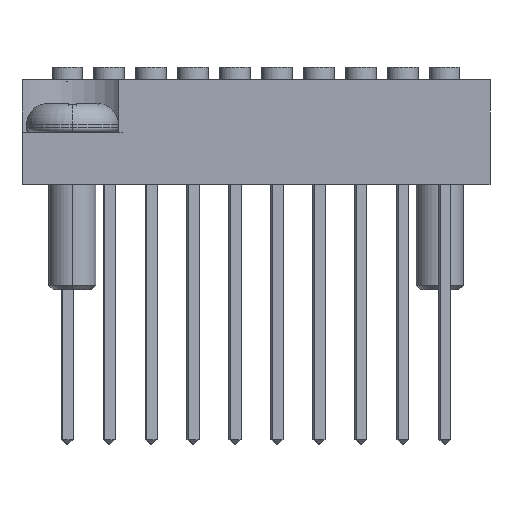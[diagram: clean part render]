
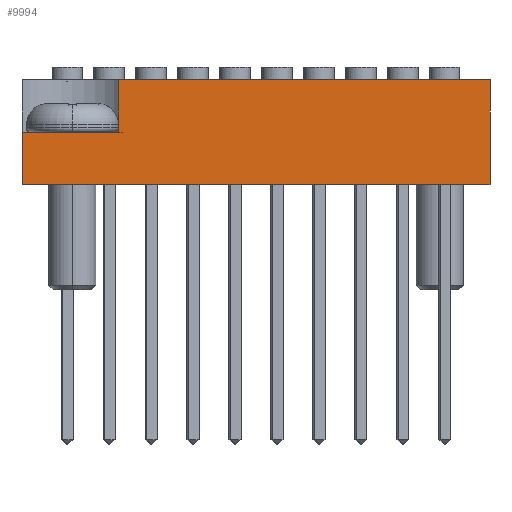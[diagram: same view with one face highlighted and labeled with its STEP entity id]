
A CAD part, front view. The second image highlights one B-rep face of the part: STEP entity #9994.
In plain terms, the highlighted planar face has unit normal (0, -1, 0).
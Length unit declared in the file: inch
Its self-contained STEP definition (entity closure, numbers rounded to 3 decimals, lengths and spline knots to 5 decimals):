
#769 = CARTESIAN_POINT ( 'NONE',  ( -0.5575, -1.1725, -0.125 ) ) ;
#1097 = FACE_OUTER_BOUND ( 'NONE', #22522, .T. ) ;
#1261 = CARTESIAN_POINT ( 'NONE',  ( -0.5575, -1.1725, 0. ) ) ;
#1272 = EDGE_CURVE ( 'NONE', #14596, #31813, #16004, .T. ) ;
#1523 = DIRECTION ( 'NONE',  ( 0., 0., -1. ) ) ;
#1575 = VECTOR ( 'NONE', #1523, 39.37008 ) ;
#1974 = VERTEX_POINT ( 'NONE', #27723 ) ;
#2332 = DIRECTION ( 'NONE',  ( -1., 0., 0. ) ) ;
#3085 = LINE ( 'NONE', #7639, #18431 ) ;
#3359 = ORIENTED_EDGE ( 'NONE', *, *, #21157, .T. ) ;
#6263 = AXIS2_PLACEMENT_3D ( 'NONE', #31208, #34085, #16837 ) ;
#6632 = DIRECTION ( 'NONE',  ( 1., 0., 0. ) ) ;
#7231 = ORIENTED_EDGE ( 'NONE', *, *, #26665, .F. ) ;
#7589 = LINE ( 'NONE', #29550, #37309 ) ;
#7639 = CARTESIAN_POINT ( 'NONE',  ( -0.5575, -1.1725, -0.125 ) ) ;
#9994 = ADVANCED_FACE ( 'NONE', ( #1097 ), #11073, .F. ) ;
#10033 = LINE ( 'NONE', #10928, #32065 ) ;
#10928 = CARTESIAN_POINT ( 'NONE',  ( -0.5575, -1.1725, 0. ) ) ;
#11073 = PLANE ( 'NONE',  #6263 ) ;
#12070 = CARTESIAN_POINT ( 'NONE',  ( -0.32688, -1.1725, 0. ) ) ;
#13432 = CARTESIAN_POINT ( 'NONE',  ( 0.5575, -1.1725, -0.125 ) ) ;
#14596 = VERTEX_POINT ( 'NONE', #1261 ) ;
#15971 = CARTESIAN_POINT ( 'NONE',  ( -0.32688, -1.1725, 0.125 ) ) ;
#16004 = LINE ( 'NONE', #18785, #1575 ) ;
#16681 = CARTESIAN_POINT ( 'NONE',  ( 0.5575, -1.1725, 0.125 ) ) ;
#16837 = DIRECTION ( 'NONE',  ( 0., 0., 1. ) ) ;
#17475 = ORIENTED_EDGE ( 'NONE', *, *, #24441, .T. ) ;
#18378 = ORIENTED_EDGE ( 'NONE', *, *, #1272, .T. ) ;
#18431 = VECTOR ( 'NONE', #26892, 39.37008 ) ;
#18785 = CARTESIAN_POINT ( 'NONE',  ( -0.5575, -1.1725, 0.125 ) ) ;
#19939 = VECTOR ( 'NONE', #36857, 39.37008 ) ;
#21157 = EDGE_CURVE ( 'NONE', #32357, #14596, #10033, .T. ) ;
#21599 = VERTEX_POINT ( 'NONE', #29011 ) ;
#22522 = EDGE_LOOP ( 'NONE', ( #3359, #18378, #17475, #23025, #7231, #24296 ) ) ;
#23025 = ORIENTED_EDGE ( 'NONE', *, *, #29636, .F. ) ;
#24296 = ORIENTED_EDGE ( 'NONE', *, *, #33511, .T. ) ;
#24441 = EDGE_CURVE ( 'NONE', #31813, #34070, #3085, .T. ) ;
#26163 = VECTOR ( 'NONE', #36132, 39.37008 ) ;
#26665 = EDGE_CURVE ( 'NONE', #1974, #21599, #7589, .T. ) ;
#26892 = DIRECTION ( 'NONE',  ( 1., 0., 0. ) ) ;
#27723 = CARTESIAN_POINT ( 'NONE',  ( -0.32688, -1.1725, 0.125 ) ) ;
#29011 = CARTESIAN_POINT ( 'NONE',  ( 0.5575, -1.1725, 0.125 ) ) ;
#29550 = CARTESIAN_POINT ( 'NONE',  ( -0.5575, -1.1725, 0.125 ) ) ;
#29636 = EDGE_CURVE ( 'NONE', #21599, #34070, #34331, .T. ) ;
#31208 = CARTESIAN_POINT ( 'NONE',  ( -0.5575, -1.1725, 0.125 ) ) ;
#31813 = VERTEX_POINT ( 'NONE', #769 ) ;
#32065 = VECTOR ( 'NONE', #2332, 39.37008 ) ;
#32357 = VERTEX_POINT ( 'NONE', #12070 ) ;
#33511 = EDGE_CURVE ( 'NONE', #1974, #32357, #33827, .T. ) ;
#33827 = LINE ( 'NONE', #15971, #26163 ) ;
#34070 = VERTEX_POINT ( 'NONE', #13432 ) ;
#34085 = DIRECTION ( 'NONE',  ( 0., 1., 0. ) ) ;
#34331 = LINE ( 'NONE', #16681, #19939 ) ;
#36132 = DIRECTION ( 'NONE',  ( 0., 0., -1. ) ) ;
#36857 = DIRECTION ( 'NONE',  ( 0., 0., -1. ) ) ;
#37309 = VECTOR ( 'NONE', #6632, 39.37008 ) ;
